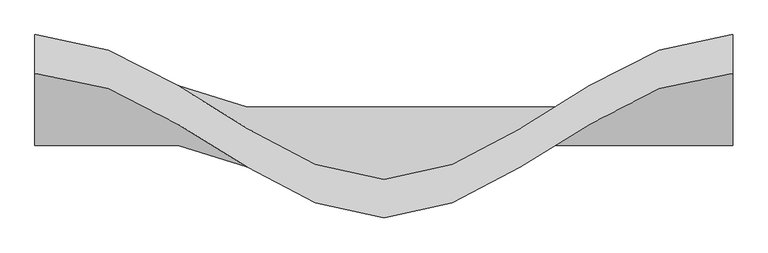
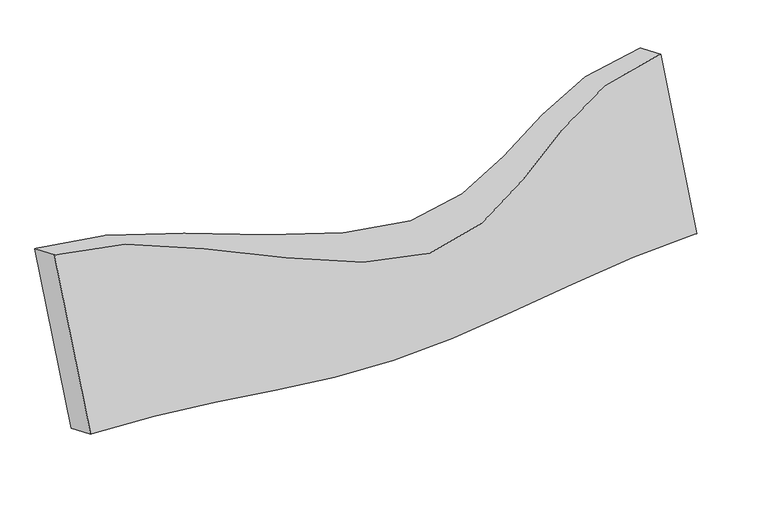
"""IFC4 building model written with IfcOpenShell, lengths in millimetres: plate geometry, مدل پارامتریک کصینوس دار : مدل پارامتریک کصینوس دار."""

from ifc_helpers import new_model, si_unit, frame, origin, place, context, project, spatial, source, transform, mapped, element, save
from ifc_brep_helpers import plane_surface, spline_curve, spline_surface, advanced_brep


def plate_51c6a2b6(model_context):
    return source(origin(), model_context, "Body", "AdvancedBrep", [
        advanced_brep(
        [(3000.0, -2000.6958488, -2.1248974), (5000.0, -2000.6958488, -2.1248974), (5000.0, -2111.5613927, 43.7971145), (3000.0, -2111.5613927, 43.7971145), (5000.0, -1904.4642599, 543.7738212), (3000.0, -1904.4642599, 543.7738212), (5000.0, -1793.598716, 497.8518093), (3000.0, -1793.598716, 497.8518093)],
        [
            (0, 1, spline_curve(3, [(3000.0, -2000.6958488, -2.1248974), (3001.333546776, -2000.6958488, -2.124894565), (3002.666933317, -2000.6958488, -2.124891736), (3350.39835685, -2000.6958488, -2.126369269), (3675.199178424, -2000.6958488, -2.7013574), (4324.800821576, -2000.6958488, -2.7013574), (4649.60164315, -2000.6958488, -2.126369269), (4997.333066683, -2000.6958488, -2.124891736), (4998.666453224, -2000.6958488, -2.124894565), (5000.0, -2000.6958488, -2.1248974)], [4, 2, 2, 2, 4], [0.0, 0.0019168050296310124, 0.4999999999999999, 0.998083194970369, 1.0])),
            (1, 2),
            (2, 3, spline_curve(3, [(5000.0, -2111.5613927, 43.7971145), (4998.666453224, -2111.5613927, 43.797568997), (4997.333066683, -2111.5613927, 43.798022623), (4649.60164315, -2111.5613927, 43.561138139), (4324.800821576, -2111.5613927, -48.6233693), (3675.199178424, -2111.5613927, -48.6233693), (3350.39835685, -2111.5613927, 43.561138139), (3002.666933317, -2111.5613927, 43.798022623), (3001.333546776, -2111.5613927, 43.797568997), (3000.0, -2111.5613927, 43.7971145)], [4, 2, 2, 2, 4], [0.0, 0.0019168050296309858, 0.5000000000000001, 0.998083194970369, 1.0])),
            (3, 0),
            (2, 4),
            (4, 5, spline_curve(3, [(5000.0, -1904.4642599, 543.7738212), (4998.666453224, -1904.462223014, 543.774275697), (4997.333066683, -1904.460190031, 543.774729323), (4649.60164315, -1905.521818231, 543.537844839), (4324.800821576, -2318.6585255, 451.3533374), (3675.199178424, -2318.6585255, 451.3533374), (3350.39835685, -1905.521818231, 543.537844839), (3002.666933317, -1904.460190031, 543.774729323), (3001.333546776, -1904.462223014, 543.774275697), (3000.0, -1904.4642599, 543.7738212)], [4, 2, 2, 2, 4], [0.0, 0.0019168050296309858, 0.5000000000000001, 0.998083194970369, 1.0])),
            (5, 3),
            (4, 6),
            (6, 7, spline_curve(3, [(5000.0, -1793.598716, 497.8518093), (4998.666453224, -1793.596679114, 497.851812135), (4997.333066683, -1793.594646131, 497.851814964), (4649.60164315, -1794.656274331, 497.850337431), (4324.800821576, -2207.7929816, 497.2753493), (3675.199178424, -2207.7929816, 497.2753493), (3350.39835685, -1794.656274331, 497.850337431), (3002.666933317, -1793.594646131, 497.851814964), (3001.333546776, -1793.596679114, 497.851812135), (3000.0, -1793.598716, 497.8518093)], [4, 2, 2, 2, 4], [0.0, 0.0019168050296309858, 0.5000000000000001, 0.998083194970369, 1.0])),
            (7, 5),
            (6, 1),
            (0, 7),
        ],
        [
            spline_surface(3, 3, [[(3000.0, -2000.6958488, -2.1248974), (3000.0, -2037.6510301, 13.182439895), (3000.0, -2074.6062114, 28.489777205), (3000.0, -2111.5613927, 43.7971145)], [(3001.333546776, -2000.6958488, -2.124894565), (3001.333546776, -2037.6510301, 13.182593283), (3001.333546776, -2074.6062114, 28.490081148), (3001.333546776, -2111.5613927, 43.797568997)], [(3002.666933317, -2000.6958488, -2.124891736), (3002.666933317, -2037.6510301, 13.182746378), (3002.666933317, -2074.6062114, 28.490384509), (3002.666933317, -2111.5613927, 43.798022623)], [(3350.398356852, -2000.6958488, -2.12636927), (3350.398356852, -2037.6510301, 13.102799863), (3350.398356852, -2074.6062114, 28.331969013), (3350.398356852, -2111.5613927, 43.561138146)], [(3675.199178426, -2000.6958488, -2.7013574), (3675.199178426, -2037.6510301, -18.008694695), (3675.199178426, -2074.6062114, -33.316032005), (3675.199178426, -2111.5613927, -48.6233693)], [(4324.800821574, -2000.6958488, -2.7013574), (4324.800821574, -2037.6510301, -18.008694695), (4324.800821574, -2074.6062114, -33.316032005), (4324.800821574, -2111.5613927, -48.6233693)], [(4649.601643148, -2000.6958488, -2.12636927), (4649.601643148, -2037.6510301, 13.102799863), (4649.601643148, -2074.6062114, 28.331969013), (4649.601643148, -2111.5613927, 43.561138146)], [(4997.333066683, -2000.6958488, -2.124891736), (4997.333066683, -2037.6510301, 13.182746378), (4997.333066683, -2074.6062114, 28.490384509), (4997.333066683, -2111.5613927, 43.798022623)], [(4998.666453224, -2000.6958488, -2.124894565), (4998.666453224, -2037.6510301, 13.182593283), (4998.666453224, -2074.6062114, 28.490081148), (4998.666453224, -2111.5613927, 43.797568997)], [(5000.0, -2000.6958488, -2.1248974), (5000.0, -2037.6510301, 13.182439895), (5000.0, -2074.6062114, 28.489777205), (5000.0, -2111.5613927, 43.7971145)]], [4, 2, 2, 2, 4], [4, 4], [0.0, 0.0019168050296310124, 0.4999999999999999, 0.998083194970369, 1.0], [0.0, 1.0]),
            spline_surface(3, 3, [[(3000.0, -2111.5613927, 43.7971145), (3000.0, -2042.529015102, 210.456016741), (3000.0, -1973.496637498, 377.114918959), (3000.0, -1904.4642599, 543.7738212)], [(3001.333546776, -2111.5613927, 43.797568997), (3001.333546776, -2042.52833614, 210.456471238), (3001.333546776, -1973.495279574, 377.115373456), (3001.333546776, -1904.462223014, 543.774275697)], [(3002.666933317, -2111.5613927, 43.798022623), (3002.666933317, -2042.527658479, 210.456924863), (3002.666933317, -1973.493924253, 377.115827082), (3002.666933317, -1904.460190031, 543.774729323)], [(3350.398356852, -2111.5613927, 43.561138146), (3350.398356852, -2042.881534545, 210.220040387), (3350.398356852, -1974.201676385, 376.878942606), (3350.398356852, -1905.52181823, 543.537844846)], [(3675.199178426, -2111.5613927, -48.6233693), (3675.199178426, -2180.593770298, 118.035532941), (3675.199178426, -2249.626147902, 284.694435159), (3675.199178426, -2318.6585255, 451.3533374)], [(4324.800821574, -2111.5613927, -48.6233693), (4324.800821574, -2180.593770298, 118.035532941), (4324.800821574, -2249.626147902, 284.694435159), (4324.800821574, -2318.6585255, 451.3533374)], [(4649.601643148, -2111.5613927, 43.561138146), (4649.601643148, -2042.881534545, 210.220040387), (4649.601643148, -1974.201676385, 376.878942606), (4649.601643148, -1905.52181823, 543.537844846)], [(4997.333066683, -2111.5613927, 43.798022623), (4997.333066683, -2042.527658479, 210.456924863), (4997.333066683, -1973.493924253, 377.115827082), (4997.333066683, -1904.460190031, 543.774729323)], [(4998.666453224, -2111.5613927, 43.797568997), (4998.666453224, -2042.52833614, 210.456471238), (4998.666453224, -1973.495279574, 377.115373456), (4998.666453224, -1904.462223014, 543.774275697)], [(5000.0, -2111.5613927, 43.7971145), (5000.0, -2042.529015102, 210.456016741), (5000.0, -1973.496637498, 377.114918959), (5000.0, -1904.4642599, 543.7738212)]], [4, 2, 2, 2, 4], [4, 4], [0.0, 0.0019168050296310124, 0.4999999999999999, 0.998083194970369, 1.0], [0.0, 1.0]),
            spline_surface(3, 3, [[(3000.0, -1904.4642599, 543.7738212), (3000.0, -1867.5090786, 528.466483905), (3000.0, -1830.5538973, 513.159146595), (3000.0, -1793.598716, 497.8518093)], [(3001.333546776, -1904.462223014, 543.774275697), (3001.333546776, -1867.507041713, 528.466787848), (3001.333546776, -1830.551860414, 513.159299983), (3001.333546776, -1793.596679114, 497.851812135)], [(3002.666933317, -1904.460190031, 543.774729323), (3002.666933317, -1867.505008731, 528.467091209), (3002.666933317, -1830.549827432, 513.159453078), (3002.666933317, -1793.594646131, 497.851814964)], [(3350.398356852, -1905.52181823, 543.537844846), (3350.398356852, -1868.566636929, 528.308675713), (3350.398356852, -1831.61145563, 513.079506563), (3350.398356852, -1794.65627433, 497.85033743)], [(3675.199178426, -2318.6585255, 451.3533374), (3675.199178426, -2281.7033442, 466.660674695), (3675.199178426, -2244.7481629, 481.968012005), (3675.199178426, -2207.7929816, 497.2753493)], [(4324.800821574, -2318.6585255, 451.3533374), (4324.800821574, -2281.7033442, 466.660674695), (4324.800821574, -2244.7481629, 481.968012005), (4324.800821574, -2207.7929816, 497.2753493)], [(4649.601643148, -1905.52181823, 543.537844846), (4649.601643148, -1868.566636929, 528.308675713), (4649.601643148, -1831.61145563, 513.079506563), (4649.601643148, -1794.65627433, 497.85033743)], [(4997.333066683, -1904.460190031, 543.774729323), (4997.333066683, -1867.505008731, 528.467091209), (4997.333066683, -1830.549827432, 513.159453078), (4997.333066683, -1793.594646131, 497.851814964)], [(4998.666453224, -1904.462223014, 543.774275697), (4998.666453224, -1867.507041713, 528.466787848), (4998.666453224, -1830.551860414, 513.159299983), (4998.666453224, -1793.596679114, 497.851812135)], [(5000.0, -1904.4642599, 543.7738212), (5000.0, -1867.5090786, 528.466483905), (5000.0, -1830.5538973, 513.159146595), (5000.0, -1793.598716, 497.8518093)]], [4, 2, 2, 2, 4], [4, 4], [0.0, 0.0019168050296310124, 0.4999999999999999, 0.998083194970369, 1.0], [0.0, 1.0]),
            spline_surface(3, 3, [[(3000.0, -1793.598716, 497.8518093), (3000.0, -1862.631093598, 331.192907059), (3000.0, -1931.663471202, 164.534004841), (3000.0, -2000.6958488, -2.1248974)], [(3001.333546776, -1793.596679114, 497.851812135), (3001.333546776, -1862.629735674, 331.192909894), (3001.333546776, -1931.66279224, 164.534007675), (3001.333546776, -2000.6958488, -2.124894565)], [(3002.666933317, -1793.594646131, 497.851814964), (3002.666933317, -1862.628380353, 331.192912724), (3002.666933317, -1931.662114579, 164.534010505), (3002.666933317, -2000.6958488, -2.124891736)], [(3350.398356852, -1794.65627433, 497.85033743), (3350.398356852, -1863.336132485, 331.191435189), (3350.398356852, -1932.015990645, 164.532532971), (3350.398356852, -2000.6958488, -2.12636927)], [(3675.199178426, -2207.7929816, 497.2753493), (3675.199178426, -2138.760604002, 330.616447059), (3675.199178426, -2069.728226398, 163.957544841), (3675.199178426, -2000.6958488, -2.7013574)], [(4324.800821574, -2207.7929816, 497.2753493), (4324.800821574, -2138.760604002, 330.616447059), (4324.800821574, -2069.728226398, 163.957544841), (4324.800821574, -2000.6958488, -2.7013574)], [(4649.601643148, -1794.65627433, 497.85033743), (4649.601643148, -1863.336132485, 331.191435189), (4649.601643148, -1932.015990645, 164.532532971), (4649.601643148, -2000.6958488, -2.12636927)], [(4997.333066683, -1793.594646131, 497.851814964), (4997.333066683, -1862.628380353, 331.192912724), (4997.333066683, -1931.662114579, 164.534010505), (4997.333066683, -2000.6958488, -2.124891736)], [(4998.666453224, -1793.596679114, 497.851812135), (4998.666453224, -1862.629735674, 331.192909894), (4998.666453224, -1931.66279224, 164.534007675), (4998.666453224, -2000.6958488, -2.124894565)], [(5000.0, -1793.598716, 497.8518093), (5000.0, -1862.631093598, 331.192907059), (5000.0, -1931.663471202, 164.534004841), (5000.0, -2000.6958488, -2.1248974)]], [4, 2, 2, 2, 4], [4, 4], [0.0, 0.0019168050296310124, 0.4999999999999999, 0.998083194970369, 1.0], [0.0, 1.0]),
            plane_surface(frame((5000.0, -1952.5800543, 270.8244619), z_axis=(1.0, 0.0, 0.0), x_axis=(0.0, -0.9238795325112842, 0.382683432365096))),
            plane_surface(frame((3000.0, -1952.5800543, 270.8244619), z_axis=(-1.0, 0.0, 0.0), x_axis=(0.0, 0.3826834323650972, 0.9238795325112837))),
        ],
        [
            (0, [[1, 2, 3, 4]]),
            (1, [[-3, 5, 6, 7]]),
            (2, [[-6, 8, 9, 10]]),
            (3, [[-9, 11, -1, 12]]),
            (4, [[-11, -8, -5, -2]]),
            (5, [[-4, -7, -10, -12]]),
        ],
    ),
    ])


if __name__ == "__main__":
    model = new_model("IFC4")
    model_context = context("Model", 3, world=origin())
    ifc_project = project(units=[si_unit("LENGTHUNIT", "METRE", prefix="MILLI")], contexts=[model_context])
    site = spatial("IfcSite", under=ifc_project)
    building = spatial("IfcBuilding", under=site)
    placement = place(None, origin())
    plate_shape = plate_51c6a2b6(model_context)
    element("IfcPlate", 1, ObjectType="مدل پارامتریک کصینوس دار : مدل پارامتریک کصینوس دار", at=placement, inside=building, context=model_context, shape_type="MappedRepresentation", body=[
        mapped(plate_shape, transform((0.0, 0.0, 0.0), x_axis=(1.0, 0.0, 0.0), y_axis=(0.0, 1.0, 0.0), z_axis=(0.0, 0.0, 1.0))),
    ])
    save(model, "model.ifc")
